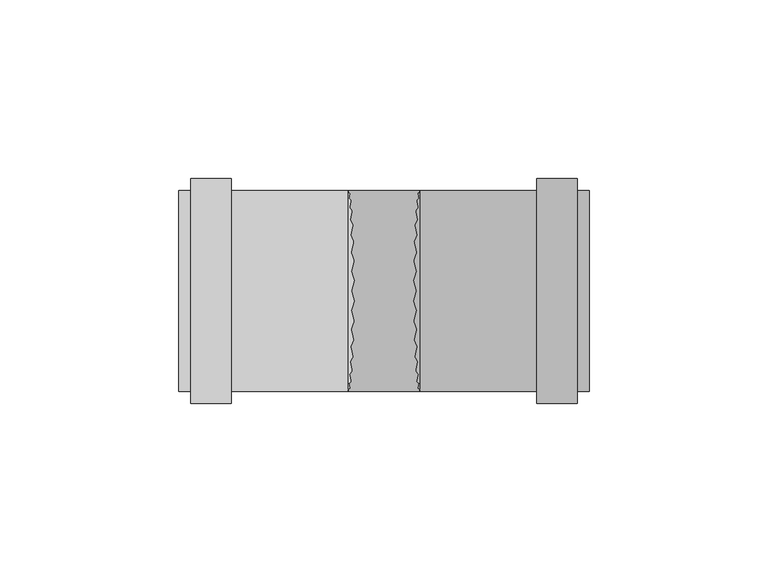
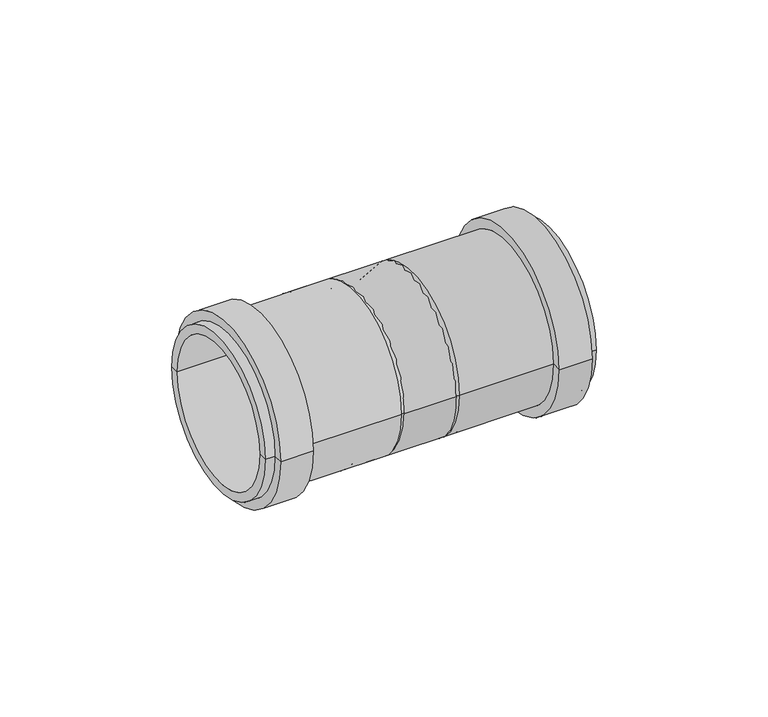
"""IFC4 building model written with IfcOpenShell, lengths in millimetres: pipe fitting geometry, pf_HTU : pf_HTU."""

from ifc_helpers import new_model, si_unit, point, frame, origin, origin_2d, place, context, project, spatial, polyline, circle_curve, trimmed, segment, composite_curve, outline, extrude, source, transform, mapped, element, save
from ifc_brep_helpers import plane_surface, cylinder_surface, revolved_surface, advanced_brep


def pipe_fitting_82c68f0e(model_context):
    return source(origin(), model_context, "Body", "SolidModel", [
        advanced_brep(
        [(6.5, -25.0, 0.0), (6.5, 25.0, 0.0), (15.0, 28.1, 0.0), (15.0, -28.1, 0.0), (6.5, 0.0, 0.0), (62.5, -28.1, 0.0), (62.5, 28.1, 0.0), (62.5, 25.0, 0.0), (62.5, -25.0, 0.0), (59.1, -28.1, 0.0), (59.1, 28.1, 0.0), (59.1, -31.5, 0.0), (59.1, 31.5, 0.0), (47.7, -31.5, 0.0), (47.7, 31.5, 0.0), (47.7, -28.1, 0.0), (47.7, 28.1, 0.0), (15.0, -25.0, 0.0), (15.0, 25.0, 0.0), (15.0, 0.0, 0.0)],
        [
            (0, 1, circle_curve(frame((6.5, 0.0, 0.0), z_axis=(1.0, 0.0, 0.0), x_axis=(0.0, 1.0, 0.0)), 25.0)),
            (1, 2),
            (2, 3, circle_curve(frame((15.0, 0.0, 0.0), z_axis=(-1.0, 0.0, 0.0), x_axis=(0.0, 1.0, 0.0)), 28.1)),
            (3, 0),
            (1, 0, circle_curve(frame((6.5, 0.0, 0.0), z_axis=(1.0, 0.0, 0.0), x_axis=(0.0, 1.0, 0.0)), 25.0)),
            (3, 2, circle_curve(frame((15.0, 0.0, 0.0), z_axis=(-1.0, 0.0, 0.0), x_axis=(0.0, 1.0, 0.0)), 28.1)),
            (4, 1),
            (0, 4),
            (5, 6, circle_curve(frame((62.5, 0.0, 0.0), z_axis=(1.0, 0.0, 0.0), x_axis=(0.0, 1.0, 0.0)), 28.1)),
            (6, 7),
            (7, 8, circle_curve(frame((62.5, 0.0, 0.0), z_axis=(-1.0, 0.0, 0.0), x_axis=(0.0, 1.0, 0.0)), 25.0)),
            (8, 5),
            (6, 5, circle_curve(frame((62.5, 0.0, 0.0), z_axis=(1.0, 0.0, 0.0), x_axis=(0.0, 1.0, 0.0)), 28.1)),
            (8, 7, circle_curve(frame((62.5, 0.0, 0.0), z_axis=(-1.0, 0.0, 0.0), x_axis=(0.0, 1.0, 0.0)), 25.0)),
            (9, 10, circle_curve(frame((59.1, 0.0, 0.0), z_axis=(1.0, 0.0, 0.0), x_axis=(0.0, 1.0, 0.0)), 28.1)),
            (10, 6),
            (5, 9),
            (10, 9, circle_curve(frame((59.1, 0.0, 0.0), z_axis=(1.0, 0.0, 0.0), x_axis=(0.0, 1.0, 0.0)), 28.1)),
            (11, 12, circle_curve(frame((59.1, 0.0, 0.0), z_axis=(1.0, 0.0, 0.0), x_axis=(0.0, 1.0, 0.0)), 31.5)),
            (12, 10),
            (9, 11),
            (12, 11, circle_curve(frame((59.1, 0.0, 0.0), z_axis=(1.0, 0.0, 0.0), x_axis=(0.0, 1.0, 0.0)), 31.5)),
            (13, 14, circle_curve(frame((47.7, 0.0, 0.0), z_axis=(1.0, 0.0, 0.0), x_axis=(0.0, 1.0, 0.0)), 31.5)),
            (14, 12),
            (11, 13),
            (14, 13, circle_curve(frame((47.7, 0.0, 0.0), z_axis=(1.0, 0.0, 0.0), x_axis=(0.0, 1.0, 0.0)), 31.5)),
            (15, 16, circle_curve(frame((47.7, 0.0, 0.0), z_axis=(1.0, 0.0, 0.0), x_axis=(0.0, 1.0, 0.0)), 28.1)),
            (16, 14),
            (13, 15),
            (16, 15, circle_curve(frame((47.7, 0.0, 0.0), z_axis=(1.0, 0.0, 0.0), x_axis=(0.0, 1.0, 0.0)), 28.1)),
            (2, 16),
            (15, 3),
            (17, 18, circle_curve(frame((15.0, 0.0, 0.0), z_axis=(1.0, 0.0, 0.0), x_axis=(0.0, 1.0, 0.0)), 25.0)),
            (18, 19),
            (19, 17),
            (18, 17, circle_curve(frame((15.0, 0.0, 0.0), z_axis=(1.0, 0.0, 0.0), x_axis=(0.0, 1.0, 0.0)), 25.0)),
            (7, 18),
            (17, 8),
        ],
        [
            revolved_surface(polyline([(15.0, 28.1, 0.0), (6.5, 25.0, 0.0)]), (6.5, 0.0, 0.0), (-1.0, 0.0, 0.0)),
            plane_surface(frame((6.5, 0.0, 0.0), z_axis=(-1.0, 0.0, 0.0), x_axis=(0.0, 1.0, 0.0))),
            plane_surface(frame((62.5, 0.0, 0.0), z_axis=(1.0, 0.0, 0.0), x_axis=(0.0, 1.0, 0.0))),
            cylinder_surface(frame((6.5, 0.0, 0.0), z_axis=(-1.0, 0.0, 0.0), x_axis=(0.0, 1.0, 0.0)), 28.1),
            plane_surface(frame((59.1, 0.0, 0.0), z_axis=(1.0, 0.0, 0.0), x_axis=(0.0, 1.0, 0.0))),
            cylinder_surface(frame((6.5, 0.0, 0.0), z_axis=(-1.0, 0.0, 0.0), x_axis=(0.0, 1.0, 0.0)), 31.5),
            plane_surface(frame((47.7, 0.0, 0.0), z_axis=(-1.0, 0.0, 0.0), x_axis=(0.0, 1.0, 0.0))),
            plane_surface(frame((15.0, 0.0, 0.0), z_axis=(1.0, 0.0, 0.0), x_axis=(0.0, 1.0, 0.0))),
            revolved_surface(polyline([(15.0, 25.0, 0.0), (62.5, 25.0, 0.0)]), (6.5, 0.0, 0.0), (-1.0, 0.0, 0.0)),
        ],
        [
            (0, [[1, 2, 3, 4]]),
            (0, [[5, -4, 6, -2]]),
            (1, [[7, -1, 8]]),
            (1, [[-8, -5, -7]]),
            (2, [[9, 10, 11, 12]]),
            (2, [[13, -12, 14, -10]]),
            (3, [[15, 16, -9, 17]]),
            (3, [[18, -17, -13, -16]]),
            (4, [[19, 20, -15, 21]]),
            (4, [[22, -21, -18, -20]]),
            (5, [[23, 24, -19, 25]]),
            (5, [[26, -25, -22, -24]]),
            (6, [[27, 28, -23, 29]]),
            (6, [[30, -29, -26, -28]]),
            (3, [[-3, 31, -27, 32]]),
            (3, [[-6, -32, -30, -31]]),
            (7, [[33, 34, 35]]),
            (7, [[36, -35, -34]]),
            (8, [[-11, 37, -33, 38]]),
            (8, [[-14, -38, -36, -37]]),
        ],
    ),
        advanced_brep(
        [(3.5, 25.0, 0.0), (3.5, -25.0, 0.0), (-5.0, -28.1, 0.0), (-5.0, 28.1, 0.0), (3.5, 0.0, 0.0), (-52.5, 28.1, 0.0), (-52.5, -28.1, 0.0), (-52.5, -25.0, 0.0), (-52.5, 25.0, 0.0), (-49.1, 28.1, 0.0), (-49.1, -28.1, 0.0), (-49.1, 31.5, 0.0), (-49.1, -31.5, 0.0), (-37.7, 31.5, 0.0), (-37.7, -31.5, 0.0), (-37.7, 28.1, 0.0), (-37.7, -28.1, 0.0), (-5.0, 25.0, 0.0), (-5.0, -25.0, 0.0), (-5.0, 0.0, 0.0)],
        [
            (0, 1, circle_curve(frame((3.5, 0.0, 0.0), z_axis=(-1.0, 0.0, 0.0), x_axis=(0.0, -1.0, 0.0)), 25.0)),
            (1, 2),
            (2, 3, circle_curve(frame((-5.0, 0.0, 0.0), z_axis=(1.0, 0.0, 0.0), x_axis=(0.0, -1.0, 0.0)), 28.1)),
            (3, 0),
            (1, 0, circle_curve(frame((3.5, 0.0, 0.0), z_axis=(-1.0, 0.0, 0.0), x_axis=(0.0, -1.0, 0.0)), 25.0)),
            (3, 2, circle_curve(frame((-5.0, 0.0, 0.0), z_axis=(1.0, 0.0, 0.0), x_axis=(0.0, -1.0, 0.0)), 28.1)),
            (4, 1),
            (0, 4),
            (5, 6, circle_curve(frame((-52.5, 0.0, 0.0), z_axis=(-1.0, 0.0, 0.0), x_axis=(0.0, -1.0, 0.0)), 28.1)),
            (6, 7),
            (7, 8, circle_curve(frame((-52.5, 0.0, 0.0), z_axis=(1.0, 0.0, 0.0), x_axis=(0.0, -1.0, 0.0)), 25.0)),
            (8, 5),
            (6, 5, circle_curve(frame((-52.5, 0.0, 0.0), z_axis=(-1.0, 0.0, 0.0), x_axis=(0.0, -1.0, 0.0)), 28.1)),
            (8, 7, circle_curve(frame((-52.5, 0.0, 0.0), z_axis=(1.0, 0.0, 0.0), x_axis=(0.0, -1.0, 0.0)), 25.0)),
            (9, 10, circle_curve(frame((-49.1, 0.0, 0.0), z_axis=(-1.0, 0.0, 0.0), x_axis=(0.0, -1.0, 0.0)), 28.1)),
            (10, 6),
            (5, 9),
            (10, 9, circle_curve(frame((-49.1, 0.0, 0.0), z_axis=(-1.0, 0.0, 0.0), x_axis=(0.0, -1.0, 0.0)), 28.1)),
            (11, 12, circle_curve(frame((-49.1, 0.0, 0.0), z_axis=(-1.0, 0.0, 0.0), x_axis=(0.0, -1.0, 0.0)), 31.5)),
            (12, 10),
            (9, 11),
            (12, 11, circle_curve(frame((-49.1, 0.0, 0.0), z_axis=(-1.0, 0.0, 0.0), x_axis=(0.0, -1.0, 0.0)), 31.5)),
            (13, 14, circle_curve(frame((-37.7, 0.0, 0.0), z_axis=(-1.0, 0.0, 0.0), x_axis=(0.0, -1.0, 0.0)), 31.5)),
            (14, 12),
            (11, 13),
            (14, 13, circle_curve(frame((-37.7, 0.0, 0.0), z_axis=(-1.0, 0.0, 0.0), x_axis=(0.0, -1.0, 0.0)), 31.5)),
            (15, 16, circle_curve(frame((-37.7, 0.0, 0.0), z_axis=(-1.0, 0.0, 0.0), x_axis=(0.0, -1.0, 0.0)), 28.1)),
            (16, 14),
            (13, 15),
            (16, 15, circle_curve(frame((-37.7, 0.0, 0.0), z_axis=(-1.0, 0.0, 0.0), x_axis=(0.0, -1.0, 0.0)), 28.1)),
            (2, 16),
            (15, 3),
            (17, 18, circle_curve(frame((-5.0, 0.0, 0.0), z_axis=(-1.0, 0.0, 0.0), x_axis=(0.0, -1.0, 0.0)), 25.0)),
            (18, 19),
            (19, 17),
            (18, 17, circle_curve(frame((-5.0, 0.0, 0.0), z_axis=(-1.0, 0.0, 0.0), x_axis=(0.0, -1.0, 0.0)), 25.0)),
            (7, 18),
            (17, 8),
        ],
        [
            revolved_surface(polyline([(-5.0, -28.1, 0.0), (3.5, -25.0, 0.0)]), (3.5, 0.0, 0.0), (1.0, 0.0, 0.0)),
            plane_surface(frame((3.5, 0.0, 0.0), z_axis=(1.0, 0.0, 0.0), x_axis=(0.0, -1.0, 0.0))),
            plane_surface(frame((-52.5, 0.0, 0.0), z_axis=(-1.0, 0.0, 0.0), x_axis=(0.0, -1.0, 0.0))),
            cylinder_surface(frame((3.5, 0.0, 0.0), z_axis=(1.0, 0.0, 0.0), x_axis=(0.0, -1.0, 0.0)), 28.1),
            plane_surface(frame((-49.1, 0.0, 0.0), z_axis=(-1.0, 0.0, 0.0), x_axis=(0.0, -1.0, 0.0))),
            cylinder_surface(frame((3.5, 0.0, 0.0), z_axis=(1.0, 0.0, 0.0), x_axis=(0.0, -1.0, 0.0)), 31.5),
            plane_surface(frame((-37.7, 0.0, 0.0), z_axis=(1.0, 0.0, 0.0), x_axis=(0.0, -1.0, 0.0))),
            plane_surface(frame((-5.0, 0.0, 0.0), z_axis=(-1.0, 0.0, 0.0), x_axis=(0.0, -1.0, 0.0))),
            revolved_surface(polyline([(-5.0, -25.0, 0.0), (-52.5, -25.0, 0.0)]), (3.5, 0.0, 0.0), (1.0, 0.0, 0.0)),
        ],
        [
            (0, [[1, 2, 3, 4]]),
            (0, [[5, -4, 6, -2]]),
            (1, [[7, -1, 8]]),
            (1, [[-8, -5, -7]]),
            (2, [[9, 10, 11, 12]]),
            (2, [[13, -12, 14, -10]]),
            (3, [[15, 16, -9, 17]]),
            (3, [[18, -17, -13, -16]]),
            (4, [[19, 20, -15, 21]]),
            (4, [[22, -21, -18, -20]]),
            (5, [[23, 24, -19, 25]]),
            (5, [[26, -25, -22, -24]]),
            (6, [[27, 28, -23, 29]]),
            (6, [[30, -29, -26, -28]]),
            (3, [[-3, 31, -27, 32]]),
            (3, [[-6, -32, -30, -31]]),
            (7, [[33, 34, 35]]),
            (7, [[36, -35, -34]]),
            (8, [[-11, 37, -33, 38]]),
            (8, [[-14, -38, -36, -37]]),
        ],
    ),
        extrude(outline(composite_curve([segment(trimmed(circle_curve(origin_2d(), 28.1), [point((-28.1, 0.0))], [point((28.1, 0.0))], False, "CARTESIAN"), True, "CONTINUOUS"), segment(trimmed(circle_curve(origin_2d(), 28.1), [point((28.1, 0.0))], [point((-28.1, 0.0))], False, "CARTESIAN"), True, "CONTINUOUS")], self_intersect=False)), frame((-19.2389226, 0.0, 0.0), z_axis=(1.0, 0.0, 0.0), x_axis=(0.0, 1.0, 0.0)), (0.0, 0.0, 1.0), 38.4778452),
    ])


if __name__ == "__main__":
    model = new_model("IFC4")
    model_context = context("Model", 3, world=origin())
    ifc_project = project(units=[si_unit("LENGTHUNIT", "METRE", prefix="MILLI")], contexts=[model_context])
    site = spatial("IfcSite", under=ifc_project)
    building = spatial("IfcBuilding", under=site)
    placement = place(None, origin())
    pipe_fitting_shape = pipe_fitting_82c68f0e(model_context)
    element("IfcPipeFitting", 1, ObjectType="pf_HTU : pf_HTU", at=placement, inside=building, context=model_context, shape_type="MappedRepresentation", body=[
        mapped(pipe_fitting_shape, transform((0.0, 0.0, 0.0), x_axis=(1.0, 0.0, 0.0), y_axis=(0.0, 1.0, 0.0), z_axis=(0.0, 0.0, 1.0))),
    ])
    save(model, "model.ifc")
